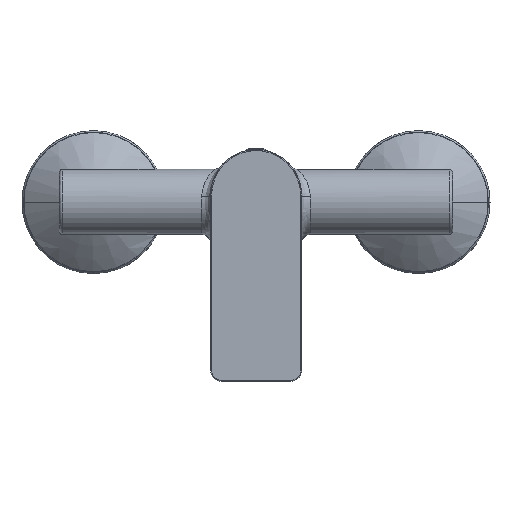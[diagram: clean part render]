
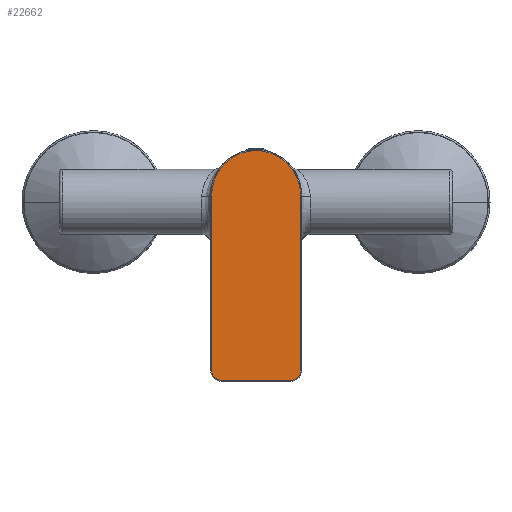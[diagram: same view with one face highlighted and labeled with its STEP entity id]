
A CAD part, top view. The second image highlights one B-rep face of the part: STEP entity #22662.
In plain terms, the highlighted planar face has unit normal (0, 0, 1).
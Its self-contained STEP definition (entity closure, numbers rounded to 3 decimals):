
#82 = CARTESIAN_POINT ( 'NONE',  ( -20.5, 0., 92.6 ) ) ;
#2296 = EDGE_CURVE ( 'NONE', #64834, #44917, #19486, .T. ) ;
#2886 = CARTESIAN_POINT ( 'NONE',  ( 20.5, -40.5, 92.6 ) ) ;
#3166 = DIRECTION ( 'NONE',  ( 0., 0., 1. ) ) ;
#3600 = DIRECTION ( 'NONE',  ( 0., 1., 0. ) ) ;
#3970 = CARTESIAN_POINT ( 'NONE',  ( 10.27, 17.793, 92.6 ) ) ;
#4444 = CARTESIAN_POINT ( 'NONE',  ( 18.425, 9.088, 92.6 ) ) ;
#4545 = EDGE_CURVE ( 'NONE', #71765, #13517, #55762, .T. ) ;
#5740 = CARTESIAN_POINT ( 'NONE',  ( -16., -85.5, 92.6 ) ) ;
#6290 = VERTEX_POINT ( 'NONE', #52238 ) ;
#6438 = CARTESIAN_POINT ( 'NONE',  ( -20.35, -82.164, 92.6 ) ) ;
#7153 = CARTESIAN_POINT ( 'NONE',  ( -17.177, -85.383, 92.6 ) ) ;
#9167 = DIRECTION ( 'NONE',  ( 0., -1., 0. ) ) ;
#9813 = CARTESIAN_POINT ( 'NONE',  ( -9.088, 18.425, 92.6 ) ) ;
#10544 = CARTESIAN_POINT ( 'NONE',  ( 19.454, 6.602, 92.6 ) ) ;
#10912 = CARTESIAN_POINT ( 'NONE',  ( 20.5, -81., 92.6 ) ) ;
#11750 = CARTESIAN_POINT ( 'NONE',  ( -17.793, 10.27, 92.6 ) ) ;
#13118 = EDGE_CURVE ( 'NONE', #69961, #64834, #31422, .T. ) ;
#13517 = VERTEX_POINT ( 'NONE', #5740 ) ;
#14388 = DIRECTION ( 'NONE',  ( 1., 0., 0. ) ) ;
#14703 = LINE ( 'NONE', #70023, #27712 ) ;
#15203 = CARTESIAN_POINT ( 'NONE',  ( 20.5, 0., 92.6 ) ) ;
#15687 = CARTESIAN_POINT ( 'NONE',  ( 5.319, 19.844, 92.6 ) ) ;
#16168 = CARTESIAN_POINT ( 'NONE',  ( 2.68, 20.369, 92.6 ) ) ;
#17927 = CARTESIAN_POINT ( 'NONE',  ( -16.592, -85.5, 92.6 ) ) ;
#19251 = VECTOR ( 'NONE', #53365, 1000. ) ;
#19486 = B_SPLINE_CURVE_WITH_KNOTS ( 'NONE', 3,
 ( #15203, #27035, #54043, #71402, #10544, #4444, #54289, #31933, #20999, #71887, #49179, #3970, #49426, #38005, #15687, #16168, #43601, #55012, #32163, #21713, #20766, #9813, #65272, #37508, #38238, #60630, #61344, #11750, #38728, #50123, #67468, #28002, #22640, #34066 ),
 .UNSPECIFIED., .F., .F.,
 ( 4, 2, 2, 2, 2, 2, 2, 2, 2, 2, 2, 2, 2, 2, 2, 2, 4 ),
 ( 0., 0.063, 0.125, 0.188, 0.25, 0.312, 0.375, 0.437, 0.5, 0.562, 0.625, 0.688, 0.75, 0.813, 0.875, 0.938, 1. ),
 .UNSPECIFIED. ) ;
#20766 = CARTESIAN_POINT ( 'NONE',  ( -6.602, 19.454, 92.6 ) ) ;
#20999 = CARTESIAN_POINT ( 'NONE',  ( 15.447, 13.544, 92.6 ) ) ;
#21713 = CARTESIAN_POINT ( 'NONE',  ( -5.319, 19.844, 92.6 ) ) ;
#21836 = CARTESIAN_POINT ( 'NONE',  ( 16., -85.5, 92.6 ) ) ;
#21838 = EDGE_LOOP ( 'NONE', ( #45271, #44697, #64546, #60138, #52346, #45103 ) ) ;
#22640 = CARTESIAN_POINT ( 'NONE',  ( -20.5, 1.347, 92.6 ) ) ;
#22662 = ADVANCED_FACE ( 'NONE', ( #55626 ), #59566, .T. ) ;
#23685 = CARTESIAN_POINT ( 'NONE',  ( -18.765, -84.599, 92.6 ) ) ;
#26170 = VECTOR ( 'NONE', #3600, 1000. ) ;
#26680 = EDGE_CURVE ( 'NONE', #6290, #13517, #47754, .T. ) ;
#27035 = CARTESIAN_POINT ( 'NONE',  ( 20.5, 1.346, 92.6 ) ) ;
#27712 = VECTOR ( 'NONE', #9167, 1000. ) ;
#28002 = CARTESIAN_POINT ( 'NONE',  ( -20.369, 2.68, 92.6 ) ) ;
#28571 = CARTESIAN_POINT ( 'NONE',  ( -20.5, -81., 92.6 ) ) ;
#29285 = CARTESIAN_POINT ( 'NONE',  ( -20.214, -82.586, 92.6 ) ) ;
#31422 = LINE ( 'NONE', #2886, #26170 ) ;
#31933 = CARTESIAN_POINT ( 'NONE',  ( 16.298, 12.508, 92.6 ) ) ;
#32163 = CARTESIAN_POINT ( 'NONE',  ( -2.68, 20.369, 92.6 ) ) ;
#34066 = CARTESIAN_POINT ( 'NONE',  ( -20.5, 0., 92.6 ) ) ;
#34149 = EDGE_CURVE ( 'NONE', #69961, #71765, #51046, .T. ) ;
#35124 = CARTESIAN_POINT ( 'NONE',  ( -19.599, -83.765, 92.6 ) ) ;
#36481 = CARTESIAN_POINT ( 'NONE',  ( -21.32, -87.62, 92.6 ) ) ;
#36530 = EDGE_CURVE ( 'NONE', #44917, #6290, #14703, .T. ) ;
#37508 = CARTESIAN_POINT ( 'NONE',  ( -12.508, 16.298, 92.6 ) ) ;
#38005 = CARTESIAN_POINT ( 'NONE',  ( 6.602, 19.455, 92.6 ) ) ;
#38238 = CARTESIAN_POINT ( 'NONE',  ( -13.544, 15.447, 92.6 ) ) ;
#38361 = CARTESIAN_POINT ( 'NONE',  ( 16., -85.5, 92.6 ) ) ;
#38728 = CARTESIAN_POINT ( 'NONE',  ( -18.425, 9.088, 92.6 ) ) ;
#39747 = CARTESIAN_POINT ( 'NONE',  ( -20.5, -81.298, 92.6 ) ) ;
#39985 = CARTESIAN_POINT ( 'NONE',  ( -18.267, -84.932, 92.6 ) ) ;
#43601 = CARTESIAN_POINT ( 'NONE',  ( 1.346, 20.5, 92.6 ) ) ;
#44697 = ORIENTED_EDGE ( 'NONE', *, *, #34149, .F. ) ;
#44917 = VERTEX_POINT ( 'NONE', #82 ) ;
#45103 = ORIENTED_EDGE ( 'NONE', *, *, #26680, .T. ) ;
#45271 = ORIENTED_EDGE ( 'NONE', *, *, #4545, .F. ) ;
#47754 = B_SPLINE_CURVE_WITH_KNOTS ( 'NONE', 3,
 ( #28571, #39747, #67544, #6438, #56525, #29285, #62155, #35124, #23685, #39985, #7153, #17927, #56765 ),
 .UNSPECIFIED., .F., .F.,
 ( 4, 1, 2, 2, 2, 2, 4 ),
 ( 0., 0.125, 0.188, 0.25, 0.5, 0.75, 1. ),
 .UNSPECIFIED. ) ;
#49179 = CARTESIAN_POINT ( 'NONE',  ( 12.508, 16.297, 92.6 ) ) ;
#49426 = CARTESIAN_POINT ( 'NONE',  ( 9.088, 18.425, 92.6 ) ) ;
#50123 = CARTESIAN_POINT ( 'NONE',  ( -19.455, 6.602, 92.6 ) ) ;
#51046 =( BOUNDED_CURVE ( )  B_SPLINE_CURVE ( 3, ( #10912, #56081, #55137, #21836 ),
 .UNSPECIFIED., .F., .F. ) 
 B_SPLINE_CURVE_WITH_KNOTS ( ( 4, 4 ),
 ( 0., 1. ),
 .UNSPECIFIED. ) 
 CURVE ( )  GEOMETRIC_REPRESENTATION_ITEM ( )  RATIONAL_B_SPLINE_CURVE ( ( 1., 0.805, 0.805, 1. ) ) 
 REPRESENTATION_ITEM ( '' )  );
#52238 = CARTESIAN_POINT ( 'NONE',  ( -20.5, -81., 92.6 ) ) ;
#52346 = ORIENTED_EDGE ( 'NONE', *, *, #36530, .T. ) ;
#53365 = DIRECTION ( 'NONE',  ( -1., 0., 0. ) ) ;
#53600 = CARTESIAN_POINT ( 'NONE',  ( 0., -85.5, 92.6 ) ) ;
#53736 = CARTESIAN_POINT ( 'NONE',  ( 20.5, -81., 92.6 ) ) ;
#54043 = CARTESIAN_POINT ( 'NONE',  ( 20.369, 2.68, 92.6 ) ) ;
#54289 = CARTESIAN_POINT ( 'NONE',  ( 17.793, 10.27, 92.6 ) ) ;
#55012 = CARTESIAN_POINT ( 'NONE',  ( -1.346, 20.5, 92.6 ) ) ;
#55137 = CARTESIAN_POINT ( 'NONE',  ( 18.636, -85.5, 92.6 ) ) ;
#55626 = FACE_OUTER_BOUND ( 'NONE', #21838, .T. ) ;
#55762 = LINE ( 'NONE', #53600, #19251 ) ;
#56081 = CARTESIAN_POINT ( 'NONE',  ( 20.5, -83.636, 92.6 ) ) ;
#56525 = CARTESIAN_POINT ( 'NONE',  ( -20.264, -82.445, 92.6 ) ) ;
#56765 = CARTESIAN_POINT ( 'NONE',  ( -16., -85.5, 92.6 ) ) ;
#59494 = AXIS2_PLACEMENT_3D ( 'NONE', #36481, #3166, #14388 ) ;
#59566 = PLANE ( 'NONE',  #59494 ) ;
#60138 = ORIENTED_EDGE ( 'NONE', *, *, #2296, .T. ) ;
#60630 = CARTESIAN_POINT ( 'NONE',  ( -15.447, 13.544, 92.6 ) ) ;
#61344 = CARTESIAN_POINT ( 'NONE',  ( -16.297, 12.508, 92.6 ) ) ;
#62155 = CARTESIAN_POINT ( 'NONE',  ( -19.932, -83.267, 92.6 ) ) ;
#62881 = CARTESIAN_POINT ( 'NONE',  ( 20.5, 0., 92.6 ) ) ;
#64546 = ORIENTED_EDGE ( 'NONE', *, *, #13118, .T. ) ;
#64834 = VERTEX_POINT ( 'NONE', #62881 ) ;
#65272 = CARTESIAN_POINT ( 'NONE',  ( -10.27, 17.793, 92.6 ) ) ;
#67468 = CARTESIAN_POINT ( 'NONE',  ( -19.844, 5.319, 92.6 ) ) ;
#67544 = CARTESIAN_POINT ( 'NONE',  ( -20.457, -81.738, 92.6 ) ) ;
#69961 = VERTEX_POINT ( 'NONE', #53736 ) ;
#70023 = CARTESIAN_POINT ( 'NONE',  ( -20.5, -40.5, 92.6 ) ) ;
#71402 = CARTESIAN_POINT ( 'NONE',  ( 19.844, 5.319, 92.6 ) ) ;
#71765 = VERTEX_POINT ( 'NONE', #38361 ) ;
#71887 = CARTESIAN_POINT ( 'NONE',  ( 13.544, 15.447, 92.6 ) ) ;
